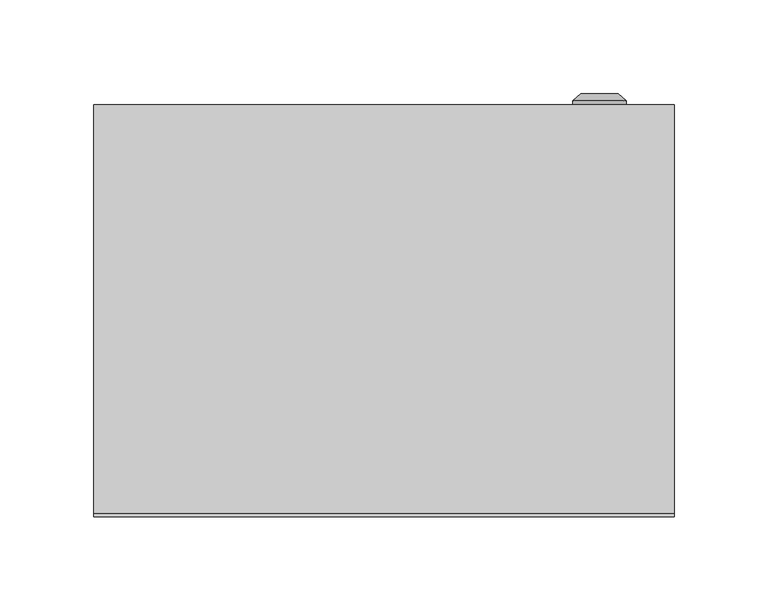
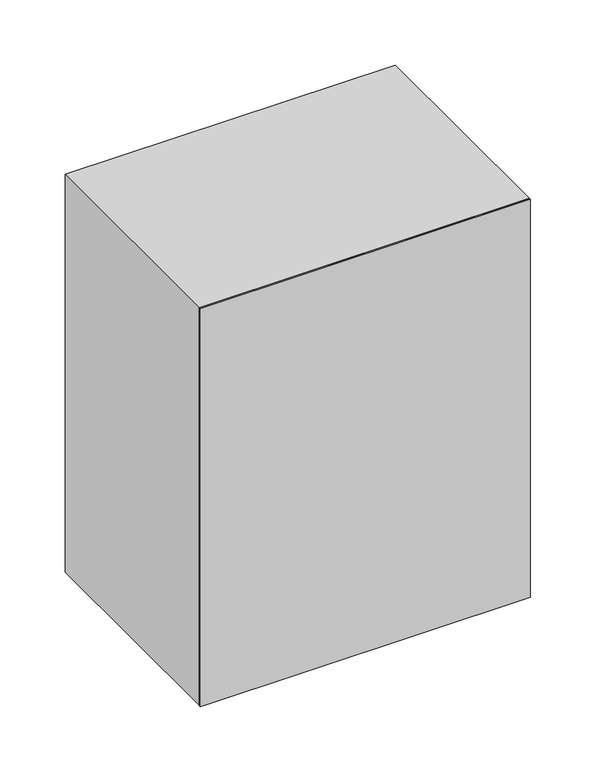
"""IFC4 building model written with IfcOpenShell, lengths in millimetres: proxy geometry, ЩМП : ЩМП-1-0_395х310х220."""

import ifcopenshell
import ifcopenshell.guid

model = None  # the IFC model being written
_history = None  # IfcOwnerHistory: only IFC2X3 demands one
_inside = {}  # id of a spatial element -> (the spatial element, [elements in it])
_under = {}  # id of a project, library or spatial element -> (it, [spatial elements below it])
_declared = {}  # id of a project -> (the project, [libraries it declares])
_typed = {}  # id of a type object -> (the type object, [elements of that type])
_made_of = {}  # id of a material, layer set ... -> (it, [elements and type objects made of it])


def new_model(schema):
    """Start an empty IFC model of exactly this schema.

    Asked for "IFC4X3", IfcOpenShell would pick the latest addendum, in which some entities
    have other attributes; the version numbers below select the first issue.
    IFC2X3 requires an IfcOwnerHistory on every rooted entity: one is made here for all.
    """
    global model, _history
    if schema == "IFC4X3":
        model = ifcopenshell.file(schema_version=(4, 3, 0, 0))
    else:
        model = ifcopenshell.file(schema=schema)
    _inside.clear()
    _under.clear()
    _declared.clear()
    _typed.clear()
    _made_of.clear()
    _history = None
    if model.schema == "IFC2X3":
        org = make("IfcOrganization", Name="unknown")
        user = make(
            "IfcPersonAndOrganization",
            ThePerson=make("IfcPerson", FamilyName="unknown"),
            TheOrganization=org,
        )
        app = make(
            "IfcApplication",
            ApplicationDeveloper=org,
            Version="unknown",
            ApplicationFullName="unknown",
            ApplicationIdentifier="unknown",
        )
        _history = make(
            "IfcOwnerHistory",
            OwningUser=user,
            OwningApplication=app,
            ChangeAction="ADDED",
            CreationDate=0,
        )
    return model


def make(cls, **values):
    """One entity of the class cls with the attributes given. An attribute that is None is left unset."""
    return model.create_entity(
        cls, **{name: value for name, value in values.items() if value is not None}
    )


def rooted(cls, **values):
    """An entity with a GlobalId (a new one), such as an element, a storey or a relation."""
    return make(cls, GlobalId=ifcopenshell.guid.new(), OwnerHistory=_history, **values)


def si_unit(unit_type, name, prefix=None):
    """IfcSIUnit, for example si_unit("LENGTHUNIT", "METRE", prefix="MILLI")."""
    return make("IfcSIUnit", UnitType=unit_type, Prefix=prefix, Name=name)


def assignment(units):
    """IfcUnitAssignment: the units of a project."""
    return None if units is None else make("IfcUnitAssignment", Units=units)


def point(xyz):
    """IfcCartesianPoint."""
    return None if xyz is None else make("IfcCartesianPoint", Coordinates=xyz)


def direction(xyz):
    """IfcDirection."""
    return None if xyz is None else make("IfcDirection", DirectionRatios=xyz)


def frame(location, z_axis=None, x_axis=None):
    """IfcAxis2Placement3D, a coordinate frame: its origin and axes. An axis left out is left unset."""
    return make(
        "IfcAxis2Placement3D",
        Location=point(location),
        Axis=direction(z_axis),
        RefDirection=direction(x_axis),
    )


def origin():
    """The frame at (0, 0, 0) with its axes left unset."""
    return frame((0.0, 0.0, 0.0))


def origin_with_axes():
    """The frame at (0, 0, 0) with the z axis (0, 0, 1) and the x axis (1, 0, 0) written out."""
    return frame((0.0, 0.0, 0.0), z_axis=(0.0, 0.0, 1.0), x_axis=(1.0, 0.0, 0.0))


def place(relative_to, where):
    """IfcLocalPlacement: puts the frame where relative to a parent placement (None: the world)."""
    return make(
        "IfcLocalPlacement", PlacementRelTo=relative_to, RelativePlacement=where
    )


def context(
    kind, dimensions, precision=None, world=None, true_north=None, identifier=None
):
    """IfcGeometricRepresentationContext, for example the 3D "Model" context."""
    return make(
        "IfcGeometricRepresentationContext",
        ContextIdentifier=identifier,
        ContextType=kind,
        CoordinateSpaceDimension=dimensions,
        Precision=precision,
        WorldCoordinateSystem=world,
        TrueNorth=true_north,
    )


def project(units=None, contexts=None):
    """IfcProject with its units and contexts."""
    return rooted(
        "IfcProject",
        Name="project",
        RepresentationContexts=contexts,
        UnitsInContext=assignment(units),
    )


def spatial(cls, under=None, at=None, **own):
    """A site, building, storey or space (cls), placed at a placement, below another one or the project."""
    s = rooted(cls, ObjectPlacement=at, **own)
    if under is not None:
        _under.setdefault(under.id(), (under, []))[1].append(s)
    return s


def polyline(points):
    """IfcPolyline through the points."""
    return make("IfcPolyline", Points=[point(p) for p in points])


def circle_curve(where, radius):
    """IfcCircle in the frame where."""
    return make("IfcCircle", Position=where, Radius=radius)


def outline(outer, holes=None, kind="AREA"):
    """IfcArbitraryClosedProfileDef: a profile drawn as a closed curve; with holes, ...WithVoids."""
    if holes is None:
        return make("IfcArbitraryClosedProfileDef", ProfileType=kind, OuterCurve=outer)
    return make(
        "IfcArbitraryProfileDefWithVoids",
        ProfileType=kind,
        OuterCurve=outer,
        InnerCurves=holes,
    )


def extrude(swept, where, along, depth):
    """IfcExtrudedAreaSolid: the profile swept, set in the frame where, extruded along a direction by depth."""
    return make(
        "IfcExtrudedAreaSolid",
        SweptArea=swept,
        Position=where,
        ExtrudedDirection=direction(along),
        Depth=depth,
    )


def shape(context_of_items, identifier, shape_type, items):
    """IfcShapeRepresentation: the items that make up one representation, for example the "Body"."""
    return make(
        "IfcShapeRepresentation",
        ContextOfItems=context_of_items,
        RepresentationIdentifier=identifier,
        RepresentationType=shape_type,
        Items=items,
    )


def source(mapping_origin, context_of_items, identifier, shape_type, items):
    """IfcRepresentationMap: a shape defined once, which mapped items show again and again."""
    return make(
        "IfcRepresentationMap",
        MappingOrigin=mapping_origin,
        MappedRepresentation=shape(context_of_items, identifier, shape_type, items),
    )


def transform(
    local_origin,
    x_axis=None,
    y_axis=None,
    z_axis=None,
    scale=None,
    scale2=None,
    scale3=None,
    uniform=True,
):
    """IfcCartesianTransformationOperator3D, or its non-uniform kind. x_axis, y_axis, z_axis: its Axis1, 2, 3."""
    if uniform:
        return make(
            "IfcCartesianTransformationOperator3D",
            Axis1=direction(x_axis),
            Axis2=direction(y_axis),
            LocalOrigin=point(local_origin),
            Scale=scale,
            Axis3=direction(z_axis),
        )
    return make(
        "IfcCartesianTransformationOperator3DnonUniform",
        Axis1=direction(x_axis),
        Axis2=direction(y_axis),
        LocalOrigin=point(local_origin),
        Scale=scale,
        Axis3=direction(z_axis),
        Scale2=scale2,
        Scale3=scale3,
    )


def mapped(mapping_source, mapping_target):
    """IfcMappedItem: shows the shape of a source again, moved by a transform."""
    return make(
        "IfcMappedItem", MappingSource=mapping_source, MappingTarget=mapping_target
    )


def made_of(thing, what):
    """Note that an element or type object is made of a material, layer set ...; save() writes the relation."""
    if what is not None:
        _made_of.setdefault(what.id(), (what, []))[1].append(thing)
    return thing


def element(
    cls,
    number,
    at=None,
    inside=None,
    cuts=None,
    type_object=None,
    material=None,
    context=None,
    identifier="Body",
    shape_type=None,
    held_by="IfcProductDefinitionShape",
    body=None,
    shapes=None,
    **own,
):
    """One element of the class cls, such as IfcWall. Its Tag is "e" and its number.

    at: its placement. inside: the storey or other place that contains it. cuts: it is an
    opening in that element (IfcRelVoidsElement). A single representation is given by context,
    identifier, shape_type and body (its items); several are given by shapes. held_by: the class
    of the entity that holds the representations. save() writes the other relations.
    """
    e = rooted(cls, Tag="e%d" % number, ObjectPlacement=at, **own)
    if body is not None:
        shapes = [shape(context, identifier, shape_type, body)]
    if shapes is not None:
        e.Representation = make(held_by, Representations=shapes)
    if inside is not None:
        _inside.setdefault(inside.id(), (inside, []))[1].append(e)
    if cuts is not None:
        rooted(
            "IfcRelVoidsElement", RelatingBuildingElement=cuts, RelatedOpeningElement=e
        )
    if type_object is not None:
        _typed.setdefault(type_object.id(), (type_object, []))[1].append(e)
    return made_of(e, material)


def aggregate(whole, parts):
    """IfcRelAggregates: a whole, such as a stair, and the parts it consists of."""
    return rooted("IfcRelAggregates", RelatingObject=whole, RelatedObjects=parts)


def save(model, path):
    """Write the relations noted so far, then the file.

    IfcRelAggregates (storeys below a building ...), IfcRelContainedInSpatialStructure (elements
    in a storey), IfcRelDefinesByType, IfcRelAssociatesMaterial and IfcRelDeclares: one each for
    every whole, place, type object, material and project.
    """
    for whole, parts in _under.values():
        aggregate(whole, parts)
    for where, things in _inside.values():
        rooted(
            "IfcRelContainedInSpatialStructure",
            RelatedElements=things,
            RelatingStructure=where,
        )
    for kind, things in _typed.values():
        rooted("IfcRelDefinesByType", RelatedObjects=things, RelatingType=kind)
    for what, things in _made_of.values():
        rooted("IfcRelAssociatesMaterial", RelatedObjects=things, RelatingMaterial=what)
    for by, libraries in _declared.values():
        rooted("IfcRelDeclares", RelatingContext=by, RelatedDefinitions=libraries)
    model.write(path)


def plane_surface(at):
    """IfcPlane: the flat surface through the origin of the frame at, square to its z axis."""
    return make("IfcPlane", Position=at)


def cylinder_surface(at, radius):
    """IfcCylindricalSurface: all points at the distance radius from the z axis of the frame at."""
    return make("IfcCylindricalSurface", Position=at, Radius=radius)


def revolved_surface(curve, axis_point, axis_direction):
    """IfcSurfaceOfRevolution: the curve turned about the line through axis_point along axis_direction."""
    return make(
        "IfcSurfaceOfRevolution",
        SweptCurve=make("IfcArbitraryOpenProfileDef", ProfileType="CURVE", Curve=curve),
        AxisPosition=make("IfcAxis1Placement", Location=point(axis_point), Axis=direction(axis_direction)),
    )


def advanced_brep(points, edges, surfaces, faces):
    """IfcAdvancedBrep: a solid bounded by faces that lie on surfaces and meet in shared edges.

    An edge is (start, end): straight between two places in points (the first is 0);
    or (start, end, curve); or (start, end, curve, False) where it runs against its curve.
    A face is (place in surfaces, loops), or (place, loops, False) where it looks against
    its surface's normal. A loop lists edges by number (the first is 1), with a minus sign
    where the edge is run from its end to its start. The first loop is the outer one.
    """
    corners = [point(p) for p in points]
    vertices = [make("IfcVertexPoint", VertexGeometry=c) for c in corners]
    made = []
    for start, end, *more in edges:
        made.append(
            make(
                "IfcEdgeCurve",
                EdgeStart=vertices[start],
                EdgeEnd=vertices[end],
                EdgeGeometry=more[0] if more else make("IfcPolyline", Points=[corners[start], corners[end]]),
                SameSense=more[1] if len(more) > 1 else True,
            )
        )
    hull = []
    for where, loops, *sense in faces:
        bounds = []
        for j, loop in enumerate(loops):
            ring = [make("IfcOrientedEdge", EdgeElement=made[abs(k) - 1], Orientation=k > 0) for k in loop]
            bounds.append(
                make(
                    "IfcFaceOuterBound" if j == 0 else "IfcFaceBound",
                    Bound=make("IfcEdgeLoop", EdgeList=ring),
                    Orientation=True,
                )
            )
        hull.append(make("IfcAdvancedFace", Bounds=bounds, FaceSurface=surfaces[where], SameSense=sense[0] if sense else True))
    return make("IfcAdvancedBrep", Outer=make("IfcClosedShell", CfsFaces=hull))


def electrical_equipment_c102921a(model_context):
    return source(origin(), model_context, "Body", "SolidModel", [
        advanced_brep(
        [(100.669873, 220.0, 195.0), (129.330127, 220.0, 195.0), (115.0, 220.0, 195.0), (100.669873, 222.366592, 195.0), (129.330127, 222.366592, 195.0), (105.0, 226.0, 195.0), (125.0, 226.0, 195.0), (113.1080471, 226.0, 195.0), (116.8919529, 226.0, 195.0), (113.1080471, 224.9822294, 195.0), (116.8919529, 224.9822294, 195.0), (115.0, 224.9822294, 195.0)],
        [
            (0, 1, circle_curve(frame((115.0, 220.0, 195.0), z_axis=(0.0, -1.0, 0.0), x_axis=(1.0, 0.0, 0.0)), 14.330127)),
            (1, 2),
            (2, 0),
            (1, 0, circle_curve(frame((115.0, 220.0, 195.0), z_axis=(0.0, -1.0, 0.0), x_axis=(1.0, 0.0, 0.0)), 14.330127)),
            (3, 4, circle_curve(frame((115.0, 222.366592, 195.0), z_axis=(0.0, -1.0, 0.0), x_axis=(1.0, 0.0, 0.0)), 14.330127)),
            (4, 1),
            (0, 3),
            (4, 3, circle_curve(frame((115.0, 222.366592, 195.0), z_axis=(0.0, -1.0, 0.0), x_axis=(1.0, 0.0, 0.0)), 14.330127)),
            (5, 6, circle_curve(frame((115.0, 226.0, 195.0), z_axis=(0.0, -1.0, 0.0), x_axis=(1.0, 0.0, 0.0)), 10.0)),
            (6, 4),
            (3, 5),
            (6, 5, circle_curve(frame((115.0, 226.0, 195.0), z_axis=(0.0, -1.0, 0.0), x_axis=(1.0, 0.0, 0.0)), 10.0)),
            (7, 8, circle_curve(frame((115.0, 226.0, 195.0), z_axis=(0.0, -1.0, 0.0), x_axis=(1.0, 0.0, 0.0)), 1.8919529)),
            (8, 6),
            (5, 7),
            (8, 7, circle_curve(frame((115.0, 226.0, 195.0), z_axis=(0.0, -1.0, 0.0), x_axis=(1.0, 0.0, 0.0)), 1.8919529)),
            (9, 10, circle_curve(frame((115.0, 224.9822294, 195.0), z_axis=(0.0, -1.0, 0.0), x_axis=(1.0, 0.0, 0.0)), 1.8919529)),
            (10, 8),
            (7, 9),
            (10, 9, circle_curve(frame((115.0, 224.9822294, 195.0), z_axis=(0.0, -1.0, 0.0), x_axis=(1.0, 0.0, 0.0)), 1.8919529)),
            (11, 10),
            (9, 11),
        ],
        [
            plane_surface(frame((115.0, 220.0, 195.0), z_axis=(0.0, -1.0, 0.0), x_axis=(1.0, 0.0, 0.0))),
            cylinder_surface(frame((115.0, 233.1348851, 195.0), z_axis=(0.0, 1.0, 0.0), x_axis=(1.0, 0.0, 0.0)), 14.330127),
            revolved_surface(polyline([(129.330127, 222.366592, 195.0), (125.0, 226.0, 195.0)]), (115.0, 233.1348851, 195.0), (0.0, 1.0, 0.0)),
            plane_surface(frame((115.0, 226.0, 195.0), z_axis=(0.0, 1.0, 0.0), x_axis=(1.0, 0.0, 0.0))),
            revolved_surface(polyline([(116.8919529, 226.0, 195.0), (116.8919529, 224.9822294, 195.0)]), (115.0, 233.1348851, 195.0), (0.0, 1.0, 0.0)),
            plane_surface(frame((115.0, 224.9822294, 195.0), z_axis=(0.0, 1.0, 0.0), x_axis=(1.0, 0.0, 0.0))),
        ],
        [
            (0, [[1, 2, 3]]),
            (0, [[4, -3, -2]]),
            (1, [[5, 6, -1, 7]]),
            (1, [[8, -7, -4, -6]]),
            (2, [[9, 10, -5, 11]]),
            (2, [[12, -11, -8, -10]]),
            (3, [[13, 14, -9, 15]]),
            (3, [[16, -15, -12, -14]]),
            (4, [[17, 18, -13, 19]]),
            (4, [[20, -19, -16, -18]]),
            (5, [[21, -17, 22]]),
            (5, [[-22, -20, -21]]),
        ],
    ),
        extrude(outline(polyline([(139.0, 195.0), (-139.0, 195.0), (-139.0, 220.0), (139.0, 220.0), (139.0, 195.0)])), frame((0.0, 0.0, 17.25), z_axis=(0.0, 0.0, 1.0), x_axis=(1.0, 0.0, 0.0)), (0.0, 0.0, 1.0), 360.5),
        extrude(outline(polyline([(395.0, -155.0033905), (0.0, -155.0033905), (0.0, 154.9966095), (395.0, 154.9966095), (395.0, -155.0033905)]), holes=[polyline([(360.0, -125.0033905), (360.0, 124.9966095), (30.0, 124.9966095), (30.0, -125.0033905), (360.0, -125.0033905)])]), frame((0.0, 2.0, 0.0), z_axis=(0.0, 1.0, 0.0), x_axis=(0.0, 0.0, 1.0)), (0.0, 0.0, 1.0), 218.0),
        extrude(outline(polyline([(155.0, 0.0), (-155.0, 0.0), (-155.0, 2.0), (155.0, 2.0), (155.0, 0.0)])), origin_with_axes(), (0.0, 0.0, 1.0), 395.0),
    ])


if __name__ == "__main__":
    model = new_model("IFC4")
    model_context = context("Model", 3, world=origin())
    ifc_project = project(units=[si_unit("LENGTHUNIT", "METRE", prefix="MILLI")], contexts=[model_context])
    site = spatial("IfcSite", under=ifc_project)
    building = spatial("IfcBuilding", under=site)
    placement = place(None, origin())
    electrical_equipment_shape = electrical_equipment_c102921a(model_context)
    element("IfcBuildingElementProxy", 1, Name="ЩМП : ЩМП-1-0_395х310х220", ObjectType="ЩМП : ЩМП-1-0_395х310х220", at=placement, inside=building, context=model_context, shape_type="MappedRepresentation", body=[
        mapped(electrical_equipment_shape, transform((0.0, 0.0, 0.0), x_axis=(1.0, 0.0, 0.0), y_axis=(0.0, 1.0, 0.0), z_axis=(0.0, 0.0, 1.0))),
    ])
    save(model, "model.ifc")
